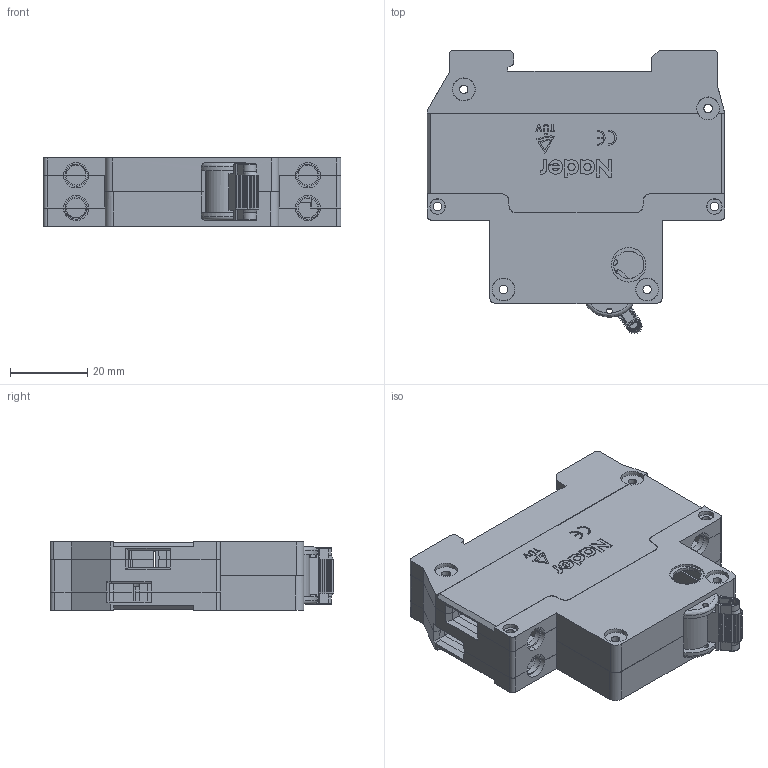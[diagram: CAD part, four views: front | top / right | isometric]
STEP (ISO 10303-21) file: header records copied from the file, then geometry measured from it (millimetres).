
FILE_DESCRIPTION (( 'STEP AP203' ), '1' );
FILE_NAME ('×°ÅäÌå23.STEP', '2017-01-19T01:49:58', ( '' ), ( '' ), 'SwSTEP 2.0', 'SolidWorks 2011', '' );
FILE_SCHEMA (( 'CONFIG_CONTROL_DESIGN' ));
Products named in the file (6): 蚾饜极23; 8LD.253.1202; 蚾饜极1; 8LD.750.106; 8LD.024.109; 8LD.315.105
Assembly tree (5 placements, depth 3):
  蚾饜极23
    8LD.253.1202
    蚾饜极1
      8LD.750.106
      8LD.024.109
      8LD.315.105
Bounding box: 77.3 x 73.73 x 17.72 mm (x, y, z)
Volume: 27967.7 mm3; surface area: 40809.1 mm2
Topology: 5 solids, 5 shells, 2101 faces, 5780 edges, 3793 vertices
Faces by surface type: plane 1412, cylinder 405, cone 162, bspline 107, torus 15
Entity records: 71427 total; most frequent: CARTESIAN_POINT 17898, ORIENTED_EDGE 11556, DIRECTION 10181, EDGE_CURVE 5778, LINE 4253, VECTOR 4253, VERTEX_POINT 3793, AXIS2_PLACEMENT_3D 2964
